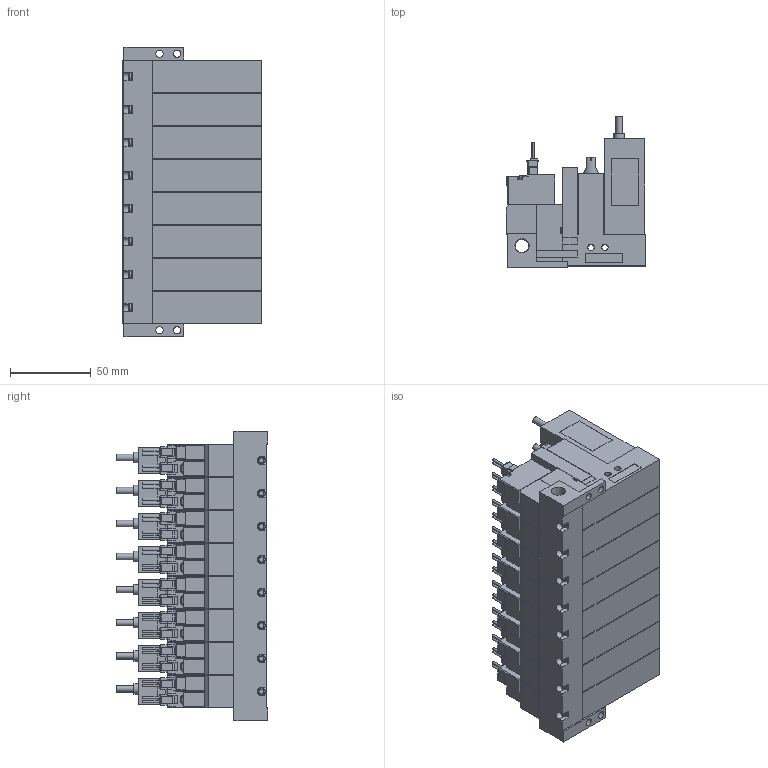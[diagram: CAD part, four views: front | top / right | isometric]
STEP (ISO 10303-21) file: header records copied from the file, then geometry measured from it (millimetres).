
FILE_DESCRIPTION(('STEP AP203'),'1');
FILE_NAME('VG_VGPLALR808.stp','2025-02-25T05:16:07',(' '),(' '),'Spatial InterOp 3D',' ',' ');
FILE_SCHEMA(('CONFIG_CONTROL_DESIGN'));
Length unit declared in the file: millimetre
Products named in the file (5): BMC22M※※※※VG_VGPLALR808; Solenoid valve A; Pressure sensor VGL; Unit L; Base MR80R
Assembly tree (25 placements, depth 2):
  BMC22M※※※※VG_VGPLALR808
    Solenoid valve A  x8
    Pressure sensor VGL  x8
    Unit L  x8
    Base MR80R
Bounding box: 86.6 x 94 x 179.5 mm (x, y, z)
Volume: 799959.4 mm3; surface area: 214533.6 mm2
Topology: 25 solids, 25 shells, 3053 faces, 8163 edges, 5392 vertices
Faces by surface type: plane 2574, cylinder 397, cone 58, torus 24
Full cylindrical faces by diameter (mm): 1.4 x32, 2.5 x24, 3 x32, 3.5 x32, 3.6 x8, 4 x48, 4.134 x8, 4.5 x4, 5.2 x8, 6 x8, 6.5 x8, 6.6 x8, 8.279 x1
Entity records: 15755 total; most frequent: CARTESIAN_POINT 3045, DIRECTION 2529, ORIENTED_EDGE 2402, EDGE_CURVE 1201, LINE 939, VECTOR 939, VERTEX_POINT 851, AXIS2_PLACEMENT_3D 795
